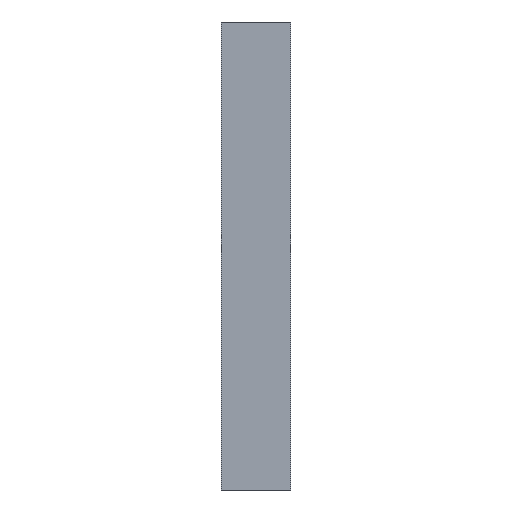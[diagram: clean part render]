
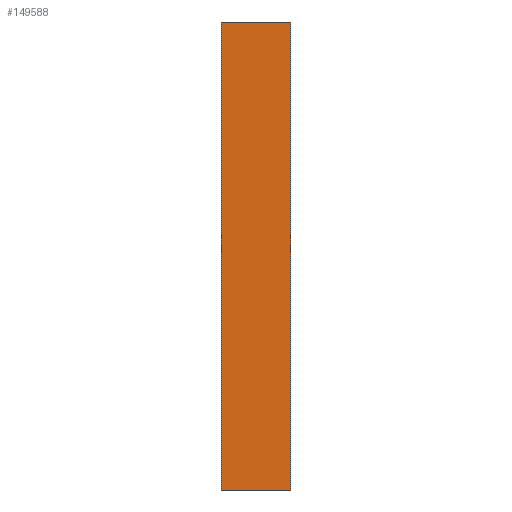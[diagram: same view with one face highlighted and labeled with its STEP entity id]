
A CAD part, front view. The second image highlights one B-rep face of the part: STEP entity #149588.
In plain terms, the highlighted planar face has unit normal (0, -1, 0).
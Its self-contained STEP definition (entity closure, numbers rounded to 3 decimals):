
#7462=DIRECTION('',(1.,0.,0.));
#7463=VECTOR('',#7462,80.);
#7464=CARTESIAN_POINT('',(-40.,92.4,70.));
#7465=LINE('',#7464,#7463);
#7466=DIRECTION('',(0.,0.,-1.));
#7467=VECTOR('',#7466,540.);
#7468=CARTESIAN_POINT('',(40.,92.4,70.));
#7469=LINE('',#7468,#7467);
#7470=DIRECTION('',(-1.,0.,0.));
#7471=VECTOR('',#7470,80.);
#7472=CARTESIAN_POINT('',(40.,92.4,-470.));
#7473=LINE('',#7472,#7471);
#7474=DIRECTION('',(0.,0.,1.));
#7475=VECTOR('',#7474,540.);
#7476=CARTESIAN_POINT('',(-40.,92.4,-470.));
#7477=LINE('',#7476,#7475);
#141669=CARTESIAN_POINT('',(-40.,92.4,70.));
#141670=CARTESIAN_POINT('',(40.,92.4,70.));
#141671=VERTEX_POINT('',#141669);
#141672=VERTEX_POINT('',#141670);
#141673=CARTESIAN_POINT('',(40.,92.4,-470.));
#141674=VERTEX_POINT('',#141673);
#141675=CARTESIAN_POINT('',(-40.,92.4,-470.));
#141676=VERTEX_POINT('',#141675);
#149574=CARTESIAN_POINT('',(0.,92.4,0.));
#149575=DIRECTION('',(0.,-1.,0.));
#149576=DIRECTION('',(0.,0.,-1.));
#149577=AXIS2_PLACEMENT_3D('',#149574,#149575,#149576);
#149578=PLANE('',#149577);
#149579=ORIENTED_EDGE('',*,*,#149564,.T.);
#149581=ORIENTED_EDGE('',*,*,#149580,.T.);
#149583=ORIENTED_EDGE('',*,*,#149582,.T.);
#149585=ORIENTED_EDGE('',*,*,#149584,.T.);
#149586=EDGE_LOOP('',(#149579,#149581,#149583,#149585));
#149587=FACE_OUTER_BOUND('',#149586,.F.);
#149588=ADVANCED_FACE('',(#149587),#149578,.T.);
#149564=EDGE_CURVE('',#141671,#141672,#7465,.T.);
#149580=EDGE_CURVE('',#141672,#141674,#7469,.T.);
#149582=EDGE_CURVE('',#141674,#141676,#7473,.T.);
#149584=EDGE_CURVE('',#141676,#141671,#7477,.T.);
